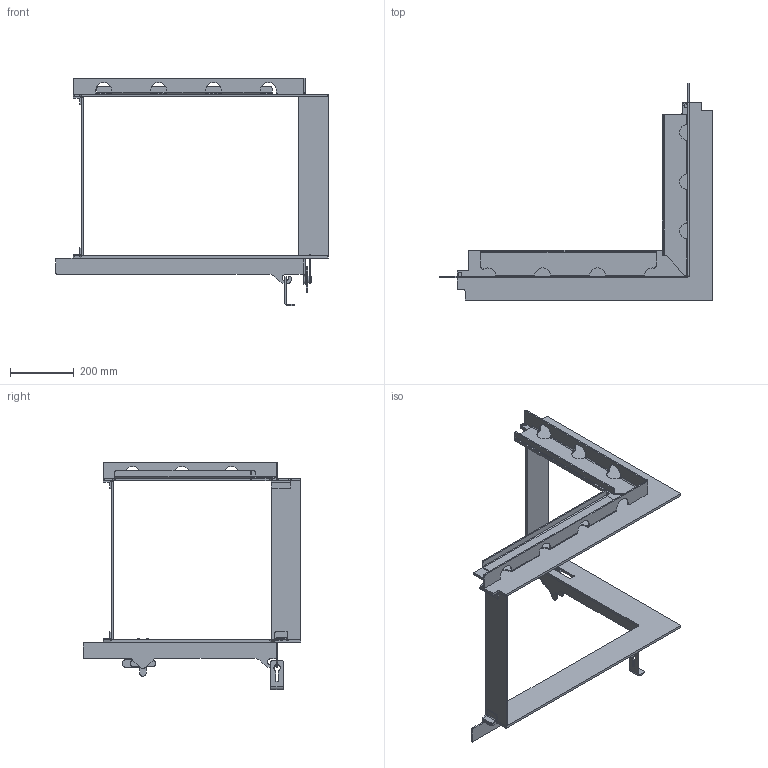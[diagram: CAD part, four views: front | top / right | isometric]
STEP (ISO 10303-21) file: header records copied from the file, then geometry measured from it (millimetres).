
FILE_DESCRIPTION(/* description */ (''),/* implementation_level */ '2;1');
FILE_NAME(/* name */ 'C:\Users\jku\Desktop\Export\RII 50x68x50 Einbaurahmen Links angeschraubt CAD Planung defriten 200109.stp',/* time_stamp */ '2020-01-09T07:47:50+01:00',/* author */ ('JKU'),/* organization */ (''),/* preprocessor_version */ 'ST-DEVELOPER v17.2',/* originating_system */ 'Autodesk Inventor 2019',/* authorisation */ '');
FILE_SCHEMA (('AUTOMOTIVE_DESIGN { 1 0 10303 214 3 1 1 }'));
Length unit declared in the file: millimetre
Products named in the file (1): 2020-00050
Bounding box: 854.9 x 682.5 x 714 mm (x, y, z)
Volume: 4176339.6 mm3; surface area: 1390439.3 mm2
Topology: 21 solids, 21 shells, 494 faces, 1306 edges, 840 vertices
Faces by surface type: plane 267, cylinder 211, bspline 12, cone 4
Full cylindrical faces by diameter (mm): 10 x1, 10.21 x2, 16 x1, 20 x2, 25 x2
Entity records: 15631 total; most frequent: CARTESIAN_POINT 2893, DIRECTION 2678, ORIENTED_EDGE 2612, EDGE_CURVE 1306, AXIS2_PLACEMENT_3D 913, LINE 852, VECTOR 852, VERTEX_POINT 840
